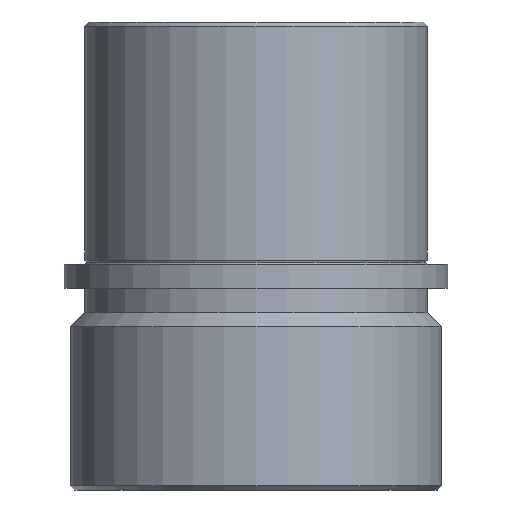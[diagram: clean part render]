
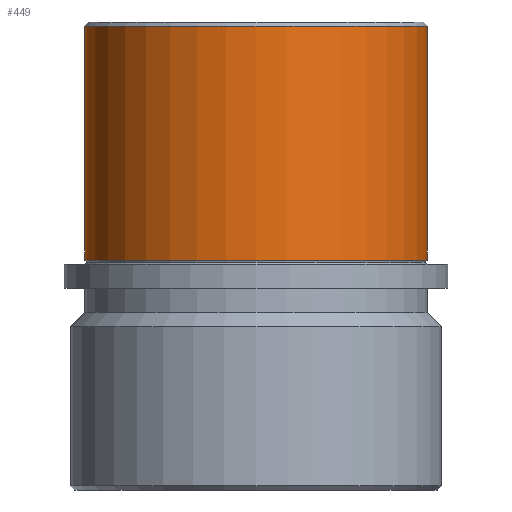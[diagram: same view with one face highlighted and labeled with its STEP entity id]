
A CAD part, front view. The second image highlights one B-rep face of the part: STEP entity #449.
In plain terms, the highlighted cylindrical face has radius 42.5 mm (diameter 85 mm), a partial arc.
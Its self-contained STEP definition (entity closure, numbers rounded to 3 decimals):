
#3 = CARTESIAN_POINT ( 'NONE',  ( 0., 0., 0. ) ) ;
#102 = DIRECTION ( 'NONE',  ( 1., 0., 0. ) ) ;
#166 = VECTOR ( 'NONE', #796, 1000. ) ;
#183 = EDGE_LOOP ( 'NONE', ( #976, #460, #866, #579 ) ) ;
#240 = CARTESIAN_POINT ( 'NONE',  ( 42.5, 0., 0. ) ) ;
#264 = CIRCLE ( 'NONE', #846, 42.5 ) ;
#268 = CARTESIAN_POINT ( 'NONE',  ( 42.5, 0., -1. ) ) ;
#270 = CARTESIAN_POINT ( 'NONE',  ( 42.5, 0., -59. ) ) ;
#287 = VECTOR ( 'NONE', #1014, 1000. ) ;
#309 = VERTEX_POINT ( 'NONE', #270 ) ;
#345 = AXIS2_PLACEMENT_3D ( 'NONE', #3, #407, #102 ) ;
#365 = FACE_OUTER_BOUND ( 'NONE', #183, .T. ) ;
#395 = DIRECTION ( 'NONE',  ( 1., 0., 0. ) ) ;
#406 = DIRECTION ( 'NONE',  ( 0., 0., -1. ) ) ;
#407 = DIRECTION ( 'NONE',  ( 0., 0., 1. ) ) ;
#417 = VERTEX_POINT ( 'NONE', #268 ) ;
#423 = CARTESIAN_POINT ( 'NONE',  ( -42.5, 0., -59. ) ) ;
#425 = VERTEX_POINT ( 'NONE', #423 ) ;
#449 = ADVANCED_FACE ( 'NONE', ( #365 ), #561, .T. ) ;
#460 = ORIENTED_EDGE ( 'NONE', *, *, #576, .T. ) ;
#472 = CARTESIAN_POINT ( 'NONE',  ( 0., 0., -1. ) ) ;
#479 = DIRECTION ( 'NONE',  ( 0., 0., 1. ) ) ;
#490 = DIRECTION ( 'NONE',  ( 1., 0., 0. ) ) ;
#497 = EDGE_CURVE ( 'NONE', #425, #832, #510, .T. ) ;
#510 = LINE ( 'NONE', #925, #287 ) ;
#549 = EDGE_CURVE ( 'NONE', #417, #832, #264, .T. ) ;
#561 = CYLINDRICAL_SURFACE ( 'NONE', #345, 42.5 ) ;
#575 = LINE ( 'NONE', #240, #166 ) ;
#576 = EDGE_CURVE ( 'NONE', #425, #309, #1081, .T. ) ;
#579 = ORIENTED_EDGE ( 'NONE', *, *, #549, .T. ) ;
#652 = CARTESIAN_POINT ( 'NONE',  ( 0., 0., -59. ) ) ;
#784 = AXIS2_PLACEMENT_3D ( 'NONE', #652, #479, #490 ) ;
#796 = DIRECTION ( 'NONE',  ( 0., 0., 1. ) ) ;
#811 = CARTESIAN_POINT ( 'NONE',  ( -42.5, 0., -1. ) ) ;
#823 = EDGE_CURVE ( 'NONE', #309, #417, #575, .T. ) ;
#832 = VERTEX_POINT ( 'NONE', #811 ) ;
#846 = AXIS2_PLACEMENT_3D ( 'NONE', #472, #406, #395 ) ;
#866 = ORIENTED_EDGE ( 'NONE', *, *, #823, .T. ) ;
#925 = CARTESIAN_POINT ( 'NONE',  ( -42.5, 0., 0. ) ) ;
#976 = ORIENTED_EDGE ( 'NONE', *, *, #497, .F. ) ;
#1014 = DIRECTION ( 'NONE',  ( 0., 0., 1. ) ) ;
#1081 = CIRCLE ( 'NONE', #784, 42.5 ) ;
